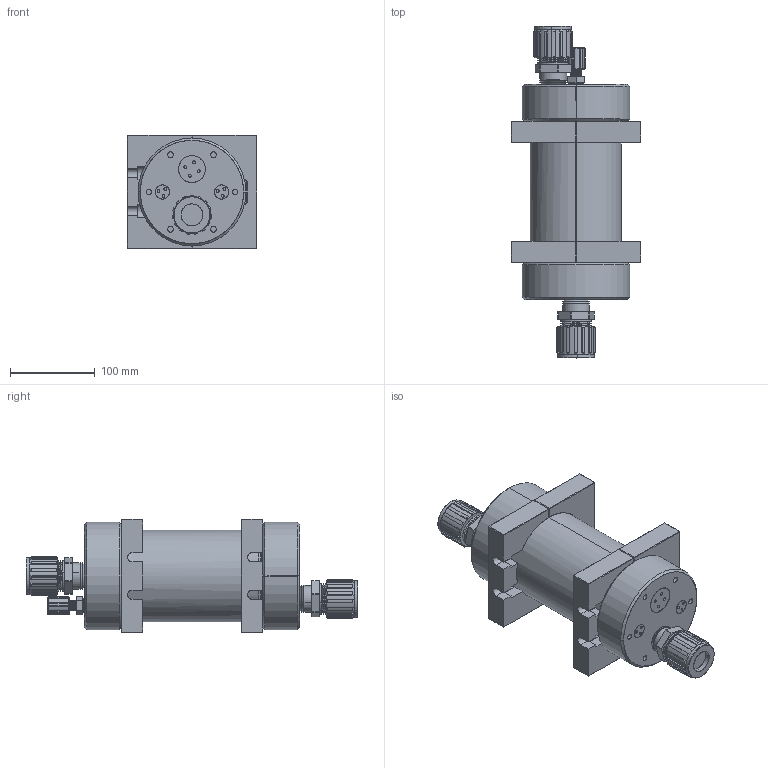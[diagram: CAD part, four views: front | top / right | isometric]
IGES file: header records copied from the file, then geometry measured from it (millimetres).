
Start section: SolidWorks IGES file using analytic representation for surfaces
Global section: file name: S:\Engineer\SW Files\R and D\Lane\PressureVessel_LG\defeatured Models\CPA-04A01L-F12F04.IGS; native system: SolidWorks 2012; preprocessor: SolidWorks 2012; author: Lane.Gardner; date: 140627.144731; units: inch
Bounding box: 152.4 x 391.46 x 133.35 mm (x, y, z)
Surface area: 231808.7 mm2 (no closed solid volume)
Topology: 0 solids, 0 shells, 901 faces, 13462 edges, 13462 vertices
Faces by surface type: revolution 457, bspline 444
